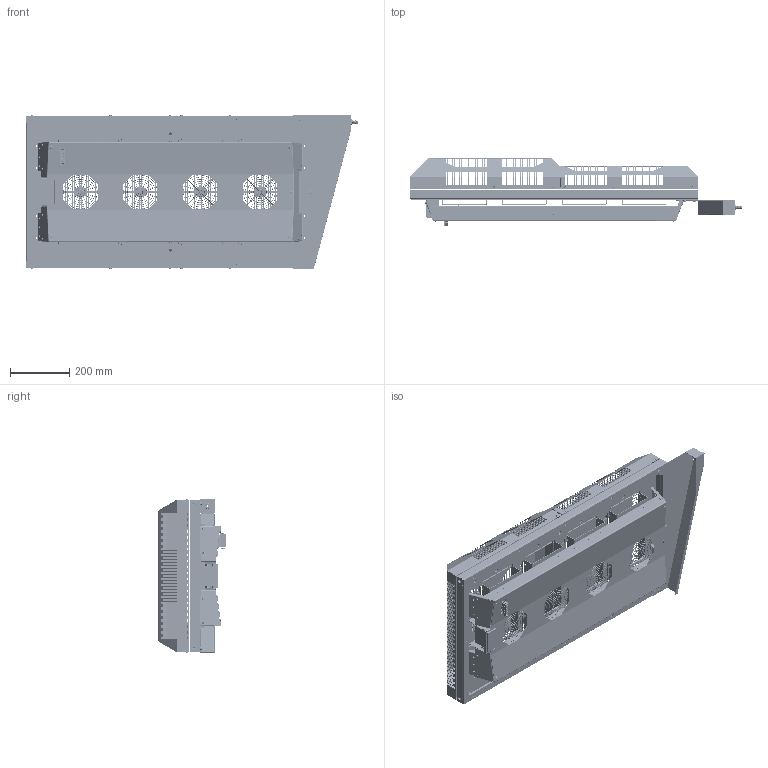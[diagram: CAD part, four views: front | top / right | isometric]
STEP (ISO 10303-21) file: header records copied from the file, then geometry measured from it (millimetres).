
FILE_DESCRIPTION((''),'2;1');
FILE_NAME('TG6805_CONDENSATE_DRAIN_ASSY__1_ASM','2017-07-11T',('briang'),(''),'CREO PARAMETRIC BY PTC INC, 2014500','CREO PARAMETRIC BY PTC INC, 2014500','');
FILE_SCHEMA(('CONFIG_CONTROL_DESIGN'));
Products named in the file (53): TG6805-HOUSING-1PC_1; POPNUT_M8_HEX_CLOSED_A2_1; POPNUT_M6_HEX_CLOSED_A2_3_5MM_1; TG6805-1PCHOUSING-WATER-DEFLECT; TG680-1PIECE-HOUSING_MNF_ASM_1_ASM; TG6805-1PCHOUSING-INS-TOP_1; TG6805-1PCHOUSING-INS-BOTTOM_1; TG6805-1PCHOUSING-INS-SIDE_1; TG6805-1PCHOUSING-INS-MID1_1; TG6805-1PCHOUSING-INS-MID2_1; TG6805-1PCHOUSING_ASM_1_ASM; TG6805-HOUSING_ASM_1_ASM; FINGER_GUARD_119X119_AXIAL_FAN_; TG3200_INTERNAL_DEFLECTOR_1; TG3200_INTERNAL_DEFLECTOR_ASM_1_ASM; TG3250_FOR_TG6250_ASM_1_ASM; TG6805-RELAY-BRKT_1; 072106080019_1; 072101080037_1; TG6805-RELAY-BRKT_ASM_1_ASM; TG6805-CNCTRS-COVER_1; TG6805-CNCTRS-COVER_ASM_1_ASM; TG6805-RELAY-COVER-SIDE1_1; TG6805-RELAY-COVER-SIDE1_ASM_1_ASM; SCREW_DIN_7985-M4X10-A2_1; TG6805-RELAY-COVER-SIDE2_1; TG6805-RELAY-COVER-SIDE2_ASM_1_ASM; TG6805-RELAY-COVER-SIDE2_MIR_1; TG6805-RELAY-COVER-SIDE2-MIRROR_ASM; TG6805-CNCTRS-COVER2_1; TG6805-CTRL-BRKT_1; CAREL_IR33PLUS_SEIFERT_1; 41290_TUTTO_1; 1757048_TUTTO_1; 1757051_TUTTO_1; 1757019_TUTTO_1; CAREL_IR33_PLUS_SEIFERT_ASM_1_ASM; TG6805-COVER_1; TG6805-COVER_ASM_1_ASM; TG6805-COVER2_1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
Assembly tree (105 placements, depth 6):
  TG6805_CONDENSATE_DRAIN_ASSY__1_ASM
    TG6805-COMPLETE_ASM_1_ASM
      TG6805-HOUSING_ASM_1_ASM
        TG6805-1PCHOUSING_ASM_1_ASM
          TG680-1PIECE-HOUSING_MNF_ASM_1_ASM
            TG6805-HOUSING-1PC_1
            POPNUT_M8_HEX_CLOSED_A2_1  x2
            POPNUT_M6_HEX_CLOSED_A2_3_5MM_1  x12
            TG6805-1PCHOUSING-WATER-DEFLECT
          TG6805-1PCHOUSING-INS-TOP_1
          TG6805-1PCHOUSING-INS-BOTTOM_1
          TG6805-1PCHOUSING-INS-SIDE_1  x2
          TG6805-1PCHOUSING-INS-MID1_1  x2
          TG6805-1PCHOUSING-INS-MID2_1  x2
      TG3250_FOR_TG6250_ASM_1_ASM  x4
        FINGER_GUARD_119X119_AXIAL_FAN_
        TG3200_INTERNAL_DEFLECTOR_ASM_1_ASM
          TG3200_INTERNAL_DEFLECTOR_1
      TG6805-RELAY-BRKT_ASM_1_ASM
        TG6805-RELAY-BRKT_1
        072106080019_1
        072101080037_1
      TG6805-CNCTRS-COVER_ASM_1_ASM
        TG6805-CNCTRS-COVER_1
      TG6805-RELAY-COVER-SIDE1_ASM_1_ASM
        TG6805-RELAY-COVER-SIDE1_1
      SCREW_DIN_7985-M4X10-A2_1  x27
      TG6805-RELAY-COVER-SIDE2_ASM_1_ASM
        TG6805-RELAY-COVER-SIDE2_1
      TG6805-RELAY-COVER-SIDE2-MIRROR_ASM
        TG6805-RELAY-COVER-SIDE2_MIR_1
      TG6805-CNCTRS-COVER2_1
      TG6805-CTRL-BRKT_1
      CAREL_IR33_PLUS_SEIFERT_ASM_1_ASM
        CAREL_IR33PLUS_SEIFERT_1
        41290_TUTTO_1
        1757048_TUTTO_1
        1757051_TUTTO_1
        1757019_TUTTO_1  x2
      TG6805-COVER_ASM_1_ASM
        TG6805-COVER_1
      TG6805-COVER2_ASM_1_ASM
        TG6805-COVER2_1
      TG6805-INS-MOUNT-HOR_1  x2
      TG6805-INS-MOUNT-VER_1  x2
    TG6805_CONDENSATE_DRAIN_ASM_1_ASM
      TG6805_COND_DRAIN_1
      NYLON_WASHER_17_04X12_6X0_79_1
      WATERTRAY_DRAIN_FITTING_1
      LOCK_NUT_12X1_RAL9005_1
    WASHER_FLAT_A6_4_S_STEEL_1  x3
    TOOTHED_WASHER_DIN6797_M5_1  x3
    BOLT_M6X12_DIN933_1  x3
Bounding box: 1119.41 x 226 x 520.09 mm (x, y, z)
Volume: 4744114 mm3; surface area: 4937394.5 mm2
Topology: 93 solids, 132 shells, 13477 faces, 36899 edges, 22722 vertices
Faces by surface type: plane 9146, cylinder 3143, cone 530, torus 472, bspline 94, sphere 84, extrusion 8
Entity records: 338700 total; most frequent: CARTESIAN_POINT 65641, ORIENTED_EDGE 57658, DIRECTION 54761, EDGE_CURVE 28843, VECTOR 23285, LINE 23277, VERTEX_POINT 17746, AXIS2_PLACEMENT_3D 15738
